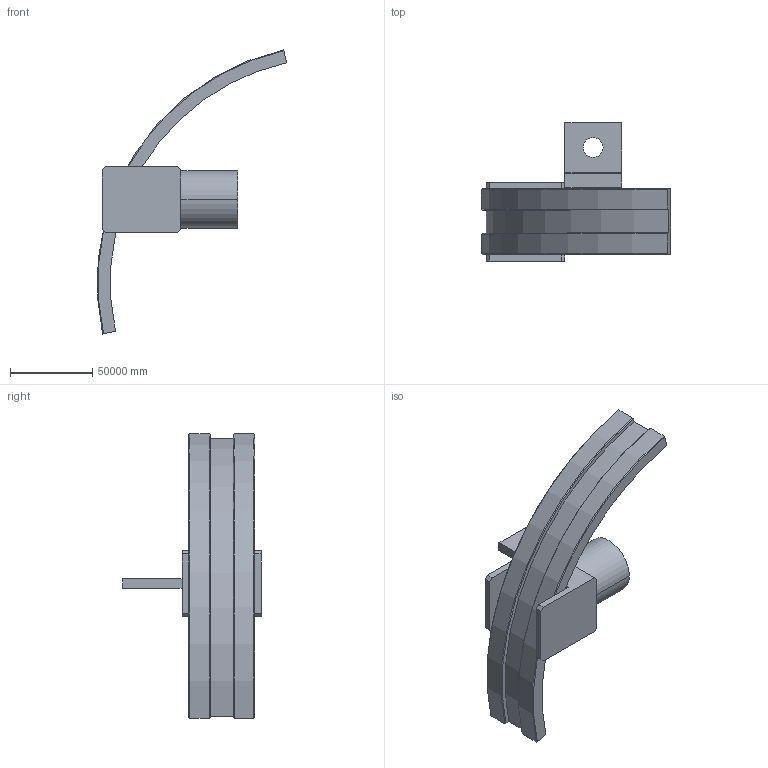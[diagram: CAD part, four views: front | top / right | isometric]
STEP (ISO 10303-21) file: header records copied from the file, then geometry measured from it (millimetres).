
FILE_DESCRIPTION(('Open CASCADE Model'),'2;1');
FILE_NAME('Open CASCADE Shape Model','2010-02-02T21:13:50',('Author'),( 'Open CASCADE'),'Open CASCADE STEP processor 6.3','Open CASCADE 6.3' ,'Unknown');
FILE_SCHEMA(('AUTOMOTIVE_DESIGN_CC2 { 1 2 10303 214 -1 1 5 4 }'));
Length unit declared in the file: millimetre
Products named in the file (4): Open CASCADE STEP translator 6.3 1; Open CASCADE STEP translator 6.3 1.1; Open CASCADE STEP translator 6.3 1.2; Open CASCADE STEP translator 6.3 1.3
Assembly tree (3 placements, depth 2):
  Open CASCADE STEP translator 6.3 1
    Open CASCADE STEP translator 6.3 1.1
    Open CASCADE STEP translator 6.3 1.2
    Open CASCADE STEP translator 6.3 1.3
Bounding box: 115038.23 x 84143.9 x 172887.03 mm (x, y, z)
Volume: 150182712997381.2 mm3; surface area: 47350723165.9 mm2
Topology: 3 solids, 3 shells, 78 faces, 191 edges, 128 vertices
Faces by surface type: plane 44, cylinder 30, cone 4
Entity records: 5342 total; most frequent: CARTESIAN_POINT 1599, DIRECTION 645, ORIENTED_EDGE 382, PCURVE 382, DEFINITIONAL_REPRESENTATION 382, LINE 289, VECTOR 289, EDGE_CURVE 191
